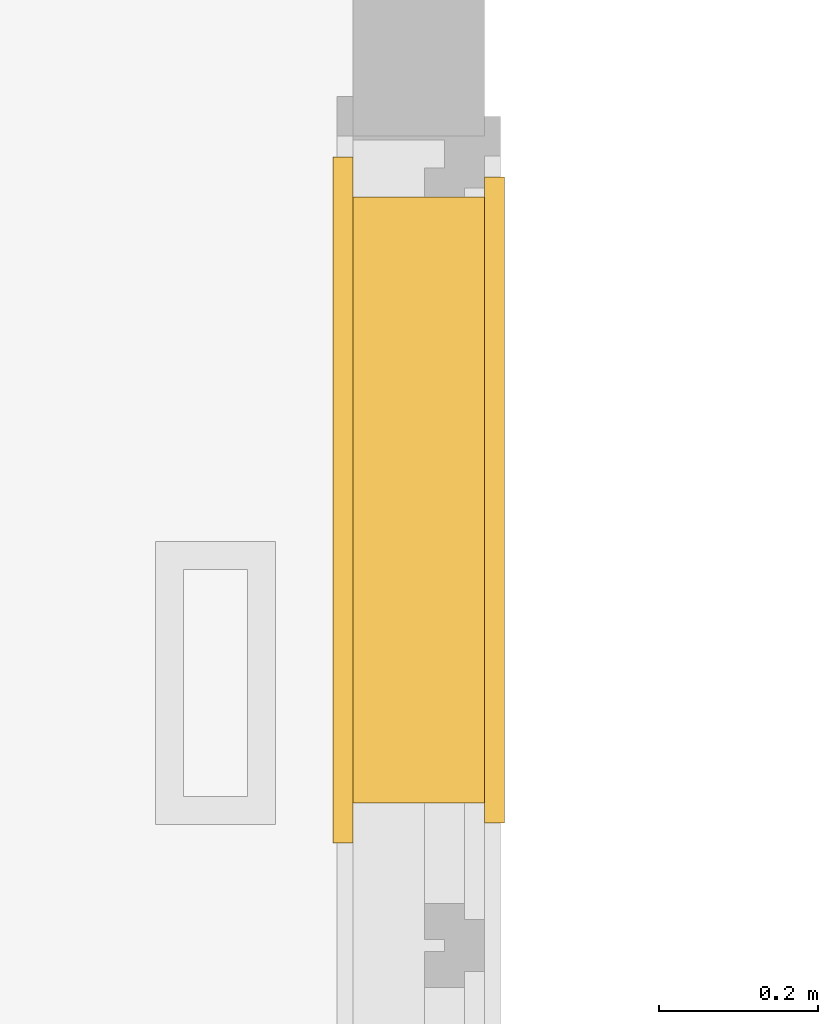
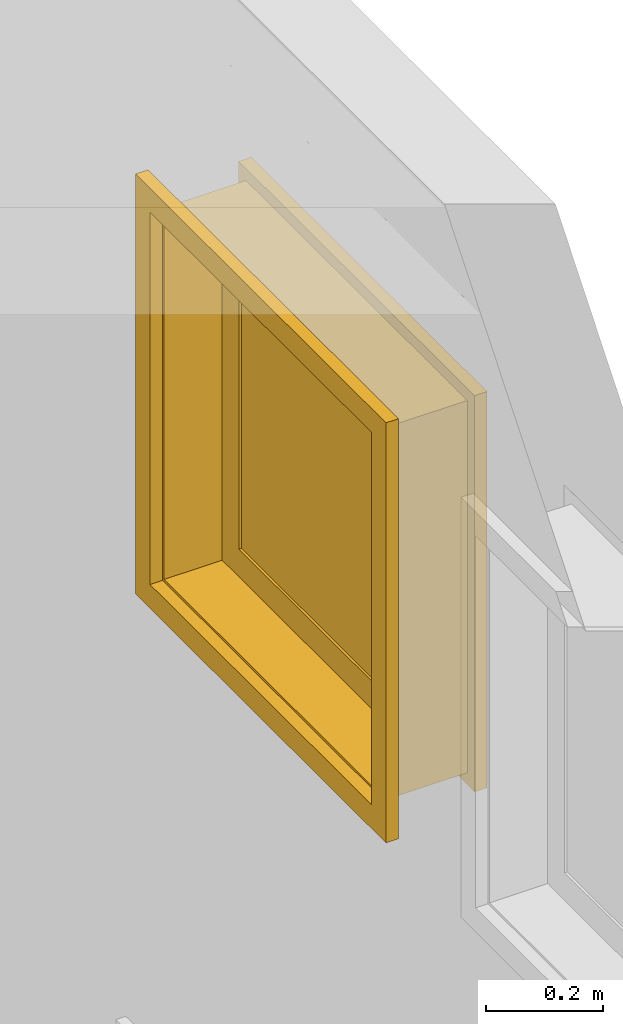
# One storey, part 43 of 77: 1 window.
"""IFC2X3 building model written with IfcOpenShell, lengths in inches."""

from ifc_helpers import new_model, entity, si_unit, converted_unit, derived_unit, money_unit, direction, frame, origin_with_axes, place, context, subcontext, project, spatial, open_shell, faceted_brep, surface_model, type_object, element, save


model = new_model("IFC2X3")

# Units and contexts
model_context = context("Model", 3, precision=0.000393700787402, world=origin_with_axes(), true_north=direction((0.0, 1.0)))
body_context = subcontext(model_context, "Body", "Model", "MODEL_VIEW")
ifc_project = project(units=[converted_unit("LENGTHUNIT", "INCH", entity("IfcPositiveLengthMeasure", 0.0254), si_unit("LENGTHUNIT", "METRE"), dimensions=[1, 0, 0, 0, 0, 0, 0]), converted_unit("AREAUNIT", "SQUARE_FOOT", entity("IfcPositiveLengthMeasure", 0.09290304), si_unit("AREAUNIT", "SQUARE_METRE"), dimensions=[2, 0, 0, 0, 0, 0, 0]), si_unit("PLANEANGLEUNIT", "RADIAN"), si_unit("SOLIDANGLEUNIT", "STERADIAN"), money_unit("USD"), converted_unit("TIMEUNIT", "Year", entity("IfcTimeMeasure", 31556926.0), si_unit("TIMEUNIT", "SECOND"), dimensions=[0, 0, 1, 0, 0, 0, 0]), si_unit("MASSUNIT", "GRAM", prefix="KILO"), si_unit("THERMODYNAMICTEMPERATUREUNIT", "DEGREE_CELSIUS"), si_unit("LUMINOUSINTENSITYUNIT", "LUMEN"), si_unit("ENERGYUNIT", "JOULE", prefix="MEGA"), derived_unit("THERMALCONDUCTANCEUNIT", [(si_unit("POWERUNIT", "WATT"), 1), (si_unit("LENGTHUNIT", "METRE"), -1), (si_unit("THERMODYNAMICTEMPERATUREUNIT", "KELVIN"), -1)]), derived_unit("SPECIFICHEATCAPACITYUNIT", [(si_unit("ENERGYUNIT", "JOULE"), 1), (si_unit("MASSUNIT", "GRAM", prefix="KILO"), -1), (si_unit("THERMODYNAMICTEMPERATUREUNIT", "KELVIN"), -1)]), derived_unit("MASSDENSITYUNIT", [(si_unit("MASSUNIT", "GRAM", prefix="KILO"), 1), (si_unit("VOLUMEUNIT", "CUBIC_METRE"), -1)])], contexts=[model_context])

# Site, building, storey
site_placement = place(None, origin_with_axes())
site = spatial("IfcSite", under=ifc_project, at=site_placement, Name="Site", CompositionType="ELEMENT")
building_placement = place(site_placement, origin_with_axes())
building = spatial("IfcBuilding", under=site, at=building_placement, Name="Building", CompositionType="ELEMENT")
storey_placement = place(building_placement, frame((0.0, 0.0, 127.952755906), z_axis=(0.0, 0.0, 1.0), x_axis=(1.0, 0.0, 0.0)))
storey = spatial("IfcBuildingStorey", under=building, at=storey_placement, Name="Second Floor", CompositionType="ELEMENT", Elevation=127.953)

# Window
window_style = type_object("IfcWindowStyle", Name="Window 25", ConstructionType="NOTDEFINED", OperationType="SINGLE_PANEL", ParameterTakesPrecedence=False, Sizeable=False)
window_placement = place(storey_placement, frame((904.222513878, 317.397539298, 137.992125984), z_axis=(0.0, 0.0, 1.0), x_axis=(-4.00995822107e-05, -0.999999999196, 0.0)))
element("IfcWindow", 1, at=window_placement, inside=storey, type_object=window_style, Name="W-39", OverallHeight=30.7087, OverallWidth=29.9213, context=body_context, shape_type="SurfaceModel", body=[
    faceted_brep([(29.9212598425, 4.53149606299, 0.0), (29.9212598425, 0.0, 0.0), (0.0, 0.0, 0.0), (0.0, 4.53149606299, 0.0), (29.9212598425, 4.53149606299, 30.7086614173), (29.9212598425, 0.0, 30.7086614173), (0.0, 0.0, 30.7086614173), (29.7244094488, 0.0, 0.196850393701), (0.196850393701, 0.0, 0.196850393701), (0.196850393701, 0.0, 30.5118110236), (29.7244094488, 0.0, 30.5118110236), (0.0, 4.53149606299, 30.7086614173), (29.7244094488, 4.53149606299, 0.196850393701), (29.7244094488, 4.53149606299, 30.5118110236), (0.196850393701, 4.53149606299, 30.5118110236), (0.196850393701, 4.53149606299, 0.196850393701)], [[[0, 1, 2, 3]], [[4, 5, 1, 0]], [[1, 5, 6, 2], [7, 8, 9, 10]], [[3, 2, 6, 11]], [[0, 3, 11, 4], [12, 13, 14, 15]], [[11, 6, 5, 4]], [[15, 8, 7, 12]], [[14, 9, 8, 15]], [[13, 10, 9, 14]], [[12, 7, 10, 13]]]),
    faceted_brep([(31.8897637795, -0.984251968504, -1.96850393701), (29.9212598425, -0.984251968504, 0.0), (29.9212598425, 0.0, 0.0), (31.8897637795, 0.0, -1.96850393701), (31.8897637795, -0.984251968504, 32.6771653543), (29.9212598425, -0.984251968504, 30.7086614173), (29.9212598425, 0.0, 30.7086614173), (31.8897637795, 0.0, 32.6771653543)], [[[0, 1, 2, 3]], [[0, 4, 5, 1]], [[1, 5, 6, 2]], [[3, 2, 6, 7]], [[4, 0, 3, 7]], [[5, 4, 7, 6]]]),
    faceted_brep([(-1.96850393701, -0.984251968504, 32.6771653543), (0.0, -0.984251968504, 30.7086614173), (0.0, 0.0, 30.7086614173), (-1.96850393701, 0.0, 32.6771653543), (-1.96850393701, -0.984251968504, -1.96850393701), (0.0, -0.984251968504, 0.0), (0.0, 0.0, 0.0), (-1.96850393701, 0.0, -1.96850393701)], [[[0, 1, 2, 3]], [[0, 4, 5, 1]], [[1, 5, 6, 2]], [[3, 2, 6, 7]], [[4, 0, 3, 7]], [[5, 4, 7, 6]]]),
    faceted_brep([(-1.96850393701, -0.984251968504, -1.96850393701), (0.0, -0.984251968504, 0.0), (0.0, 0.0, 0.0), (-1.96850393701, 0.0, -1.96850393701), (31.8897637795, -0.984251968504, -1.96850393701), (29.9212598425, -0.984251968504, 0.0), (29.9212598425, 0.0, 0.0), (31.8897637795, 0.0, -1.96850393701)], [[[0, 1, 2, 3]], [[0, 4, 5, 1]], [[1, 5, 6, 2]], [[3, 2, 6, 7]], [[4, 0, 3, 7]], [[5, 4, 7, 6]]]),
    faceted_brep([(31.8897637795, -0.984251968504, 32.6771653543), (29.9212598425, -0.984251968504, 30.7086614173), (29.9212598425, 0.0, 30.7086614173), (31.8897637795, 0.0, 32.6771653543), (-1.96850393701, -0.984251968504, 32.6771653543), (0.0, -0.984251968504, 30.7086614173), (0.0, 0.0, 30.7086614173), (-1.96850393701, 0.0, 32.6771653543)], [[[0, 1, 2, 3]], [[0, 4, 5, 1]], [[1, 5, 6, 2]], [[3, 2, 6, 7]], [[4, 0, 3, 7]], [[5, 4, 7, 6]]]),
    faceted_brep([(30.905511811, 7.4842519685, -0.984251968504), (30.905511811, 6.5, -0.984251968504), (28.937007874, 6.5, 0.984251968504), (28.937007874, 7.4842519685, 0.984251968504), (30.905511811, 7.4842519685, 31.6929133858), (30.905511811, 6.5, 31.6929133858), (28.937007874, 6.5, 29.7244094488), (28.937007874, 7.4842519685, 29.7244094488)], [[[0, 1, 2, 3]], [[4, 5, 1, 0]], [[1, 5, 6, 2]], [[3, 2, 6, 7]], [[0, 3, 7, 4]], [[7, 6, 5, 4]]]),
    faceted_brep([(-0.984251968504, 7.4842519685, 31.6929133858), (-0.984251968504, 6.5, 31.6929133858), (0.984251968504, 6.5, 29.7244094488), (0.984251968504, 7.4842519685, 29.7244094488), (-0.984251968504, 7.4842519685, -0.984251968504), (-0.984251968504, 6.5, -0.984251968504), (0.984251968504, 6.5, 0.984251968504), (0.984251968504, 7.4842519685, 0.984251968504)], [[[0, 1, 2, 3]], [[4, 5, 1, 0]], [[1, 5, 6, 2]], [[3, 2, 6, 7]], [[0, 3, 7, 4]], [[7, 6, 5, 4]]]),
    faceted_brep([(-0.984251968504, 7.4842519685, -0.984251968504), (-0.984251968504, 6.5, -0.984251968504), (0.984251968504, 6.5, 0.984251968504), (0.984251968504, 7.4842519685, 0.984251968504), (30.905511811, 7.4842519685, -0.984251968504), (30.905511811, 6.5, -0.984251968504), (28.937007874, 6.5, 0.984251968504), (28.937007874, 7.4842519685, 0.984251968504)], [[[0, 1, 2, 3]], [[4, 5, 1, 0]], [[1, 5, 6, 2]], [[3, 2, 6, 7]], [[0, 3, 7, 4]], [[7, 6, 5, 4]]]),
    faceted_brep([(30.905511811, 7.4842519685, 31.6929133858), (30.905511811, 6.5, 31.6929133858), (28.937007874, 6.5, 29.7244094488), (28.937007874, 7.4842519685, 29.7244094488), (-0.984251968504, 7.4842519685, 31.6929133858), (-0.984251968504, 6.5, 31.6929133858), (0.984251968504, 6.5, 29.7244094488), (0.984251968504, 7.4842519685, 29.7244094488)], [[[0, 1, 2, 3]], [[4, 5, 1, 0]], [[1, 5, 6, 2]], [[3, 2, 6, 7]], [[0, 3, 7, 4]], [[7, 6, 5, 4]]]),
    faceted_brep([(28.4251968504, 6.5, 28.2283464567), (28.4251968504, 4.72834645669, 28.2283464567), (27.4409448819, 4.72834645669, 28.2283464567), (27.4409448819, 4.53149606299, 28.2283464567), (29.9212598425, 4.53149606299, 28.2283464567), (29.9212598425, 6.5, 28.2283464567), (28.4251968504, 6.5, 2.48031496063), (28.4251968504, 4.72834645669, 2.48031496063), (27.4409448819, 4.72834645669, 2.48031496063), (27.4409448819, 4.53149606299, 2.48031496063), (29.9212598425, 4.53149606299, 2.48031496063), (29.9212598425, 6.5, 2.48031496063)], [[[0, 1, 2, 3, 4, 5]], [[1, 0, 6, 7]], [[8, 2, 1, 7]], [[2, 8, 9, 3]], [[4, 3, 9, 10]], [[5, 4, 10, 11]], [[6, 0, 5, 11]], [[7, 6, 11, 10, 9, 8]]]),
    faceted_brep([(2.48031496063, 4.72834645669, 28.2283464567), (1.49606299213, 4.72834645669, 28.2283464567), (1.49606299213, 6.5, 28.2283464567), (0.0, 6.5, 28.2283464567), (0.0, 4.53149606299, 28.2283464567), (2.48031496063, 4.53149606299, 28.2283464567), (2.48031496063, 4.72834645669, 2.48031496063), (1.49606299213, 4.72834645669, 2.48031496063), (1.49606299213, 6.5, 2.48031496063), (0.0, 6.5, 2.48031496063), (0.0, 4.53149606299, 2.48031496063), (2.48031496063, 4.53149606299, 2.48031496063)], [[[0, 1, 2, 3, 4, 5]], [[1, 0, 6, 7]], [[8, 2, 1, 7]], [[2, 8, 9, 3]], [[9, 10, 4, 3]], [[10, 11, 5, 4]], [[6, 0, 5, 11]], [[7, 6, 11, 10, 9, 8]]]),
    faceted_brep([(2.48031496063, 4.72834645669, 2.48031496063), (1.49606299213, 4.72834645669, 2.48031496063), (1.49606299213, 6.5, 2.48031496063), (0.0, 6.5, 2.48031496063), (0.0, 4.53149606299, 2.48031496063), (2.48031496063, 4.53149606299, 2.48031496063), (27.4409448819, 4.72834645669, 2.48031496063), (28.4251968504, 4.72834645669, 2.48031496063), (28.4251968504, 4.72834645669, 1.49606299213), (1.49606299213, 4.72834645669, 1.49606299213), (1.49606299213, 6.5, 1.49606299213), (28.4251968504, 6.5, 1.49606299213), (28.4251968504, 6.5, 2.48031496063), (29.9212598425, 6.5, 2.48031496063), (29.9212598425, 6.5, 0.0), (0.0, 6.5, 0.0), (0.0, 4.53149606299, 0.0), (29.9212598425, 4.53149606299, 2.48031496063), (27.4409448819, 4.53149606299, 2.48031496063), (29.9212598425, 4.53149606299, 0.0)], [[[0, 1, 2, 3, 4, 5]], [[1, 0, 6, 7, 8, 9]], [[10, 2, 1, 9]], [[11, 12, 13, 14, 15, 3, 2, 10]], [[15, 16, 4, 3]], [[17, 18, 5, 4, 16, 19]], [[6, 0, 5, 18]], [[7, 6, 18, 17, 13, 12]], [[7, 12, 11, 8]], [[11, 10, 9, 8]], [[13, 17, 19, 14]], [[14, 19, 16, 15]]]),
    faceted_brep([(28.4251968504, 6.5, 28.2283464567), (28.4251968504, 6.5, 29.2125984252), (1.49606299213, 6.5, 29.2125984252), (1.49606299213, 6.5, 28.2283464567), (0.0, 6.5, 28.2283464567), (0.0, 6.5, 30.7086614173), (29.9212598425, 6.5, 30.7086614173), (29.9212598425, 6.5, 28.2283464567), (28.4251968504, 4.72834645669, 28.2283464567), (28.4251968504, 4.72834645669, 29.2125984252), (1.49606299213, 4.72834645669, 29.2125984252), (1.49606299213, 4.72834645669, 28.2283464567), (2.48031496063, 4.72834645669, 28.2283464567), (2.48031496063, 4.53149606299, 28.2283464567), (0.0, 4.53149606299, 28.2283464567), (0.0, 4.53149606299, 30.7086614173), (29.9212598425, 4.53149606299, 30.7086614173), (29.9212598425, 4.53149606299, 28.2283464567), (27.4409448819, 4.53149606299, 28.2283464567), (27.4409448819, 4.72834645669, 28.2283464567)], [[[0, 1, 2, 3, 4, 5, 6, 7]], [[1, 0, 8, 9]], [[2, 1, 9, 10]], [[3, 2, 10, 11]], [[11, 12, 13, 14, 4, 3]], [[4, 14, 15, 5]], [[5, 15, 16, 6]], [[6, 16, 17, 7]], [[8, 0, 7, 17, 18, 19]], [[12, 11, 10, 9, 8, 19]], [[12, 19, 18, 13]], [[14, 13, 18, 17, 16, 15]]]),
    faceted_brep([(28.188976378, 4.72834645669, 28.9763779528), (28.4251968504, 4.72834645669, 28.9763779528), (28.4251968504, 6.3031496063, 28.9763779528), (28.188976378, 6.3031496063, 28.9763779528), (28.188976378, 4.72834645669, 1.73228346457), (28.4251968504, 4.72834645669, 1.73228346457), (28.4251968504, 6.3031496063, 1.73228346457), (28.188976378, 6.3031496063, 1.73228346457)], [[[0, 1, 2, 3]], [[0, 4, 5, 1]], [[1, 5, 6, 2]], [[3, 2, 6, 7]], [[4, 0, 3, 7]], [[5, 4, 7, 6]]]),
    faceted_brep([(1.73228346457, 4.72834645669, 1.73228346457), (1.49606299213, 4.72834645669, 1.73228346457), (1.49606299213, 6.3031496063, 1.73228346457), (1.73228346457, 6.3031496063, 1.73228346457), (1.73228346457, 4.72834645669, 28.9763779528), (1.49606299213, 4.72834645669, 28.9763779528), (1.49606299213, 6.3031496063, 28.9763779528), (1.73228346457, 6.3031496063, 28.9763779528)], [[[0, 1, 2, 3]], [[0, 4, 5, 1]], [[1, 5, 6, 2]], [[3, 2, 6, 7]], [[4, 0, 3, 7]], [[5, 4, 7, 6]]]),
    faceted_brep([(1.49606299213, 4.72834645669, 1.49606299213), (1.49606299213, 4.72834645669, 1.73228346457), (1.49606299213, 6.3031496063, 1.73228346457), (1.49606299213, 6.3031496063, 1.49606299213), (28.4251968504, 4.72834645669, 1.49606299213), (28.4251968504, 4.72834645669, 1.73228346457), (28.188976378, 4.72834645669, 1.73228346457), (1.73228346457, 4.72834645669, 1.73228346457), (1.73228346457, 6.3031496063, 1.73228346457), (28.188976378, 6.3031496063, 1.73228346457), (28.4251968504, 6.3031496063, 1.73228346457), (28.4251968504, 6.3031496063, 1.49606299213)], [[[0, 1, 2, 3]], [[0, 4, 5, 6, 7, 1]], [[1, 7, 8, 2]], [[3, 2, 8, 9, 10, 11]], [[4, 0, 3, 11]], [[5, 4, 11, 10]], [[6, 5, 10, 9]], [[7, 6, 9, 8]]]),
    faceted_brep([(28.4251968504, 4.72834645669, 29.2125984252), (28.4251968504, 4.72834645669, 28.9763779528), (28.4251968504, 6.3031496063, 28.9763779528), (28.4251968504, 6.3031496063, 29.2125984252), (1.49606299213, 4.72834645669, 29.2125984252), (1.49606299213, 4.72834645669, 28.9763779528), (1.73228346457, 4.72834645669, 28.9763779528), (28.188976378, 4.72834645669, 28.9763779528), (28.188976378, 6.3031496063, 28.9763779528), (1.73228346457, 6.3031496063, 28.9763779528), (1.49606299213, 6.3031496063, 28.9763779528), (1.49606299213, 6.3031496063, 29.2125984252)], [[[0, 1, 2, 3]], [[0, 4, 5, 6, 7, 1]], [[1, 7, 8, 2]], [[3, 2, 8, 9, 10, 11]], [[4, 0, 3, 11]], [[5, 4, 11, 10]], [[6, 5, 10, 9]], [[7, 6, 9, 8]]]),
    surface_model("IfcShellBasedSurfaceModel", [(28.188976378, 5.12204724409, 1.73228346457), (28.188976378, 5.12204724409, 28.9763779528), (1.73228346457, 5.12204724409, 28.9763779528), (1.73228346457, 5.12204724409, 1.73228346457)], [open_shell([[[0, 1, 2, 3]]])]),
    surface_model("IfcShellBasedSurfaceModel", [(28.188976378, 5.9094488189, 1.73228346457), (1.73228346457, 5.9094488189, 1.73228346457), (1.73228346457, 5.9094488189, 28.9763779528), (28.188976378, 5.9094488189, 28.9763779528)], [open_shell([[[0, 1, 2, 3]]])]),
])

save(model, "model.ifc")
